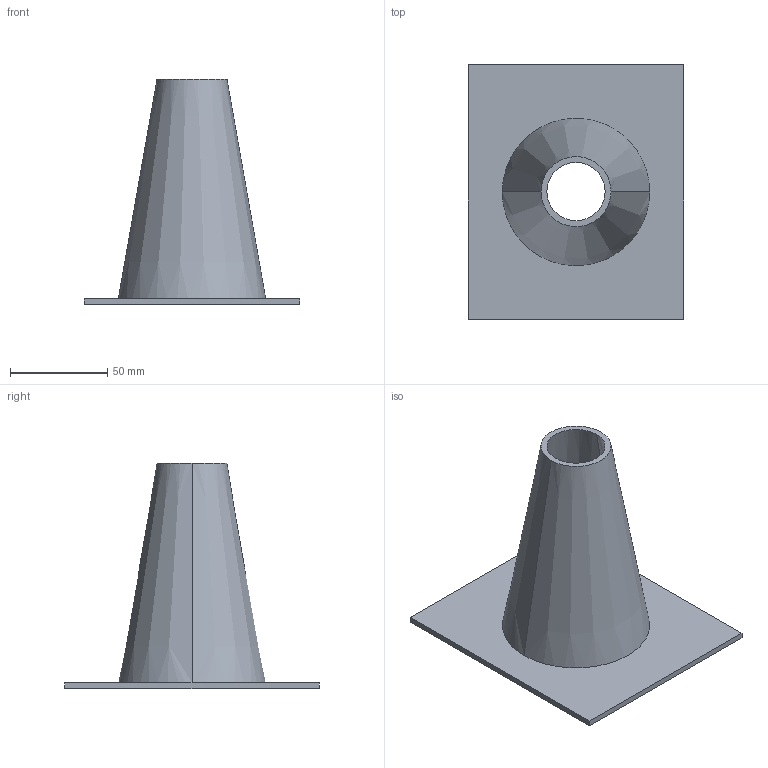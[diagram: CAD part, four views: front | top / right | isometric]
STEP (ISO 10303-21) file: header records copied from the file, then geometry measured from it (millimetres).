
FILE_DESCRIPTION(('CATIA V5 STEP Exchange'),'2;1');
FILE_NAME('C:\_Andres\UNIVERSIDAD\IQS\ASIGNATURAS\DAO\EXF\EXF-15161c\1original\Ripoll_Piera_Ej08-ensambla_v21.stp','2016-03-04T21:37:19+00:00',('none'),('none'),'CATIA Version 5 Release 20 SP 1 (IN-10)','CATIA V5 STEP AP203','none');
FILE_SCHEMA(('CONFIG_CONTROL_DESIGN'));
Length unit declared in the file: millimetre
Products named in the file (1): Ripoll_Piera_Ej08-ensambla_v21
Bounding box: 111 x 131 x 116 mm (x, y, z)
Volume: 89236.5 mm3; surface area: 61235.1 mm2
Topology: 1 solids, 1 shells, 11 faces, 24 edges, 16 vertices
Faces by surface type: plane 7, cone 4
Entity records: 414 total; most frequent: CARTESIAN_POINT 127, ORIENTED_EDGE 48, DIRECTION 44, EDGE_CURVE 24, AXIS2_PLACEMENT_3D 17, VECTOR 16, LINE 16, VERTEX_POINT 16
